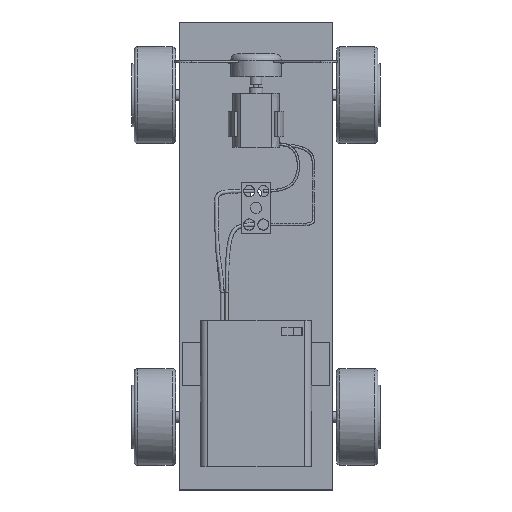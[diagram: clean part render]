
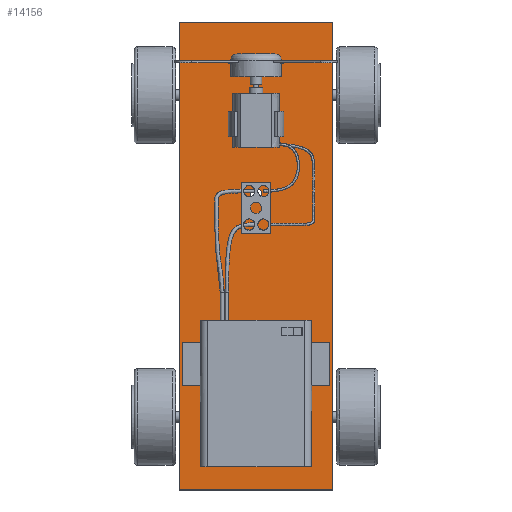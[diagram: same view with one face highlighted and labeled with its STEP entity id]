
A CAD part, top view. The second image highlights one B-rep face of the part: STEP entity #14156.
In plain terms, the highlighted free-form (B-spline) face has degree [1, 1] with [2, 2] control points.
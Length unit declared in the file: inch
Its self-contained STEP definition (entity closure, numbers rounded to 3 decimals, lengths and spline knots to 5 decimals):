
#14026 = CARTESIAN_POINT ('', (0.1875, 0., 0.));
#14027 = VERTEX_POINT ('', #14026);
#14033 = CARTESIAN_POINT ('', (0.1875, 8., 0.));
#14034 = VERTEX_POINT ('', #14033);
#14035 = CARTESIAN_POINT ('', (0.1875, 8., 0.));
#14036 = CARTESIAN_POINT ('', (0.1875, 0., 0.));
#14037 = B_SPLINE_CURVE_WITH_KNOTS ('', 1, (#14035, #14036), .UNSPECIFIED., .F., .U., (2, 2), (0.04348, 0.97101), .UNSPECIFIED.);
#14038 = EDGE_CURVE ('', #14034, #14027, #14037, .T.);
#14055 = CARTESIAN_POINT ('', (2.8125, 8., 0.));
#14056 = VERTEX_POINT ('', #14055);
#14068 = CARTESIAN_POINT ('', (2.8125, 8., 0.));
#14069 = CARTESIAN_POINT ('', (0.1875, 8., 0.));
#14070 = B_SPLINE_CURVE_WITH_KNOTS ('', 1, (#14068, #14069), .UNSPECIFIED., .F., .U., (2, 2), (11.1875, 13.8125), .UNSPECIFIED.);
#14071 = EDGE_CURVE ('', #14056, #14034, #14070, .T.);
#14082 = CARTESIAN_POINT ('', (2.8125, 0., 0.));
#14083 = VERTEX_POINT ('', #14082);
#14084 = CARTESIAN_POINT ('', (2.8125, 8., 0.));
#14085 = CARTESIAN_POINT ('', (2.8125, 0., 0.));
#14086 = B_SPLINE_CURVE_WITH_KNOTS ('', 1, (#14084, #14085), .UNSPECIFIED., .F., .U., (2, 2), (0.05714, 0.97143), .UNSPECIFIED.);
#14087 = EDGE_CURVE ('', #14056, #14083, #14086, .T.);
#14109 = ORIENTED_EDGE ('', *, *, #14087, .F.);
#14110 = ORIENTED_EDGE ('', *, *, #14071, .T.);
#14111 = ORIENTED_EDGE ('', *, *, #14038, .T.);
#14112 = CARTESIAN_POINT ('', (0.1875, 0., 0.));
#14113 = CARTESIAN_POINT ('', (2.8125, 0., 0.));
#14114 = B_SPLINE_CURVE_WITH_KNOTS ('', 1, (#14112, #14113), .UNSPECIFIED., .F., .U., (2, 2), (0.1875, 2.8125), .UNSPECIFIED.);
#14115 = EDGE_CURVE ('', #14027, #14083, #14114, .T.);
#14116 = ORIENTED_EDGE ('', *, *, #14115, .T.);
#14117 = EDGE_LOOP ('', (#14109, #14110, #14111, #14116));
#14118 = FACE_OUTER_BOUND ('', #14117, .T.);
#14119 = CARTESIAN_POINT ('', (1.5962, 5.0634, 0.));
#14120 = VERTEX_POINT ('', #14119);
#14121 = CARTESIAN_POINT ('', (1.5962, 5.0634, 0.));
#14122 = CARTESIAN_POINT ('', (1.5962, 4.9672, 0.));
#14123 = CARTESIAN_POINT ('', (1.5, 4.9672, 0.));
#14124 = CARTESIAN_POINT ('', (1.4038, 4.9672, 0.));
#14125 = CARTESIAN_POINT ('', (1.4038, 5.0634, 0.));
#14126 = CARTESIAN_POINT ('', (1.4038, 5.1596, 0.));
#14127 = CARTESIAN_POINT ('', (1.5, 5.1596, 0.));
#14128 = CARTESIAN_POINT ('', (1.5962, 5.1596, 0.));
#14129 = CARTESIAN_POINT ('', (1.5962, 5.0634, 0.));
#14130 = (
   BOUNDED_CURVE ()
   B_SPLINE_CURVE (2, (#14121, #14122, #14123, #14124, #14125, #14126, #14127, #14128, #14129), .UNSPECIFIED., .T., .U.)
   B_SPLINE_CURVE_WITH_KNOTS ((3, 2, 2, 2, 3), (0., 0.25, 0.5, 0.75, 1.), .UNSPECIFIED.)
   CURVE ()
   GEOMETRIC_REPRESENTATION_ITEM ()
   RATIONAL_B_SPLINE_CURVE ((1., 0.707, 1., 0.707, 1., 0.707, 1., 0.707, 1.))
   REPRESENTATION_ITEM ('')
);
#14131 = EDGE_CURVE ('', #14120, #14120, #14130, .T.);
#14132 = ORIENTED_EDGE ('', *, *, #14131, .T.);
#14133 = EDGE_LOOP ('', (#14132));
#14134 = FACE_BOUND ('', #14133, .T.);
#14135 = CARTESIAN_POINT ('', (1.596, 6.25, 0.));
#14136 = VERTEX_POINT ('', #14135);
#14137 = CARTESIAN_POINT ('', (1.596, 6.25, 0.));
#14138 = CARTESIAN_POINT ('', (1.596, 6.154, 0.));
#14139 = CARTESIAN_POINT ('', (1.5, 6.154, 0.));
#14140 = CARTESIAN_POINT ('', (1.404, 6.154, 0.));
#14141 = CARTESIAN_POINT ('', (1.404, 6.25, 0.));
#14142 = CARTESIAN_POINT ('', (1.404, 6.346, 0.));
#14143 = CARTESIAN_POINT ('', (1.5, 6.346, 0.));
#14144 = CARTESIAN_POINT ('', (1.596, 6.346, 0.));
#14145 = CARTESIAN_POINT ('', (1.596, 6.25, 0.));
#14146 = (
   BOUNDED_CURVE ()
   B_SPLINE_CURVE (2, (#14137, #14138, #14139, #14140, #14141, #14142, #14143, #14144, #14145), .UNSPECIFIED., .T., .U.)
   B_SPLINE_CURVE_WITH_KNOTS ((3, 2, 2, 2, 3), (0., 0.25, 0.5, 0.75, 1.), .UNSPECIFIED.)
   CURVE ()
   GEOMETRIC_REPRESENTATION_ITEM ()
   RATIONAL_B_SPLINE_CURVE ((1., 0.707, 1., 0.707, 1., 0.707, 1., 0.707, 1.))
   REPRESENTATION_ITEM ('')
);
#14147 = EDGE_CURVE ('', #14136, #14136, #14146, .T.);
#14148 = ORIENTED_EDGE ('', *, *, #14147, .T.);
#14149 = EDGE_LOOP ('', (#14148));
#14150 = FACE_BOUND ('', #14149, .T.);
#14151 = CARTESIAN_POINT ('', (10.4712, -4.9712, 0.));
#14152 = CARTESIAN_POINT ('', (-7.4712, -4.9712, 0.));
#14153 = CARTESIAN_POINT ('', (10.4712, 12.9712, 0.));
#14154 = CARTESIAN_POINT ('', (-7.4712, 12.9712, 0.));
#14155 = B_SPLINE_SURFACE_WITH_KNOTS ('', 1, 1, ((#14151, #14152), (#14153, #14154)), .UNSPECIFIED., .F., .F., .U., (2, 2), (2, 2), (0., 1.), (0., 1.), .UNSPECIFIED.);
#14156 = ADVANCED_FACE ('', (#14118, #14134, #14150), #14155, .T.);
